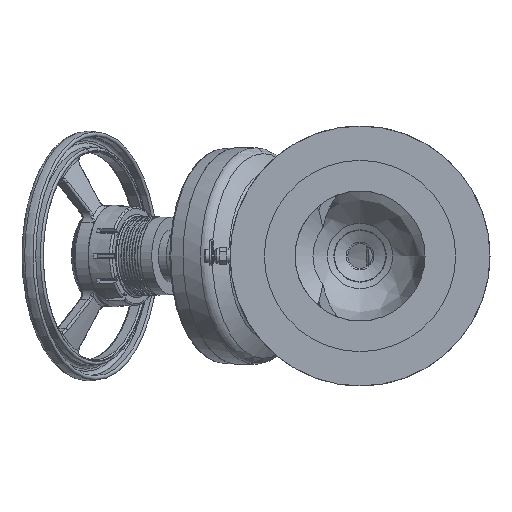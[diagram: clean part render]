
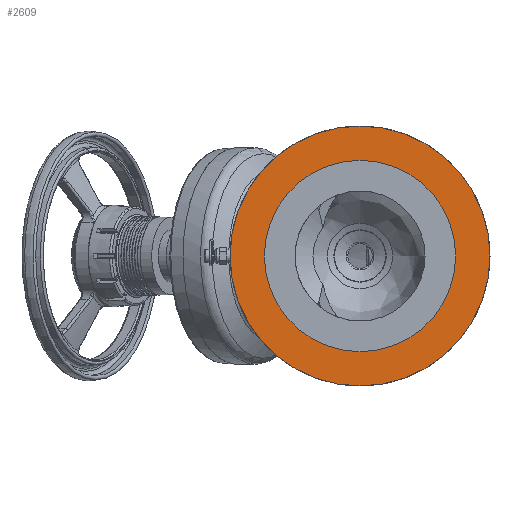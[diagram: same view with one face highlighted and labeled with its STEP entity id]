
A CAD part, left-side view. The second image highlights one B-rep face of the part: STEP entity #2609.
In plain terms, the highlighted planar face has unit normal (-1, 0, 0).
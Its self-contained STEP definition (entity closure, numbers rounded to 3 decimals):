
#2578=CARTESIAN_POINT('',(-397.,-92.,0.0));
#2579=VERTEX_POINT('',#2578);
#2580=CARTESIAN_POINT('',(-397.,0.,0.0));
#2581=DIRECTION('',(-1.0,0.0,0.0));
#2582=DIRECTION('',(0.0,-1.0,0.0));
#2583=AXIS2_PLACEMENT_3D('',#2580,#2581,#2582);
#2584=CIRCLE('',#2583,92.);
#2585=EDGE_CURVE('',#2579,#2579,#2584,.T.);
#2590=CARTESIAN_POINT('',(-397.,-108.5,0.0));
#2591=DIRECTION('',(-1.0,0.0,0.0));
#2592=DIRECTION('',(0.0,0.0,1.0));
#2593=AXIS2_PLACEMENT_3D('',#2590,#2591,#2592);
#2594=PLANE('',#2593);
#2595=CARTESIAN_POINT('',(-397.,-125.,0.0));
#2596=VERTEX_POINT('',#2595);
#2597=CARTESIAN_POINT('',(-397.,0.,0.0));
#2598=DIRECTION('',(-1.0,0.0,0.0));
#2599=DIRECTION('',(0.0,-1.0,0.0));
#2600=AXIS2_PLACEMENT_3D('',#2597,#2598,#2599);
#2601=CIRCLE('',#2600,125.);
#2602=EDGE_CURVE('',#2596,#2596,#2601,.T.);
#2603=ORIENTED_EDGE('',*,*,#2602,.T.);
#2604=EDGE_LOOP('',(#2603));
#2605=FACE_OUTER_BOUND('',#2604,.T.);
#2606=ORIENTED_EDGE('',*,*,#2585,.F.);
#2607=EDGE_LOOP('',(#2606));
#2608=FACE_BOUND('',#2607,.T.);
#2609=ADVANCED_FACE('',(#2605,#2608),#2594,.T.);
